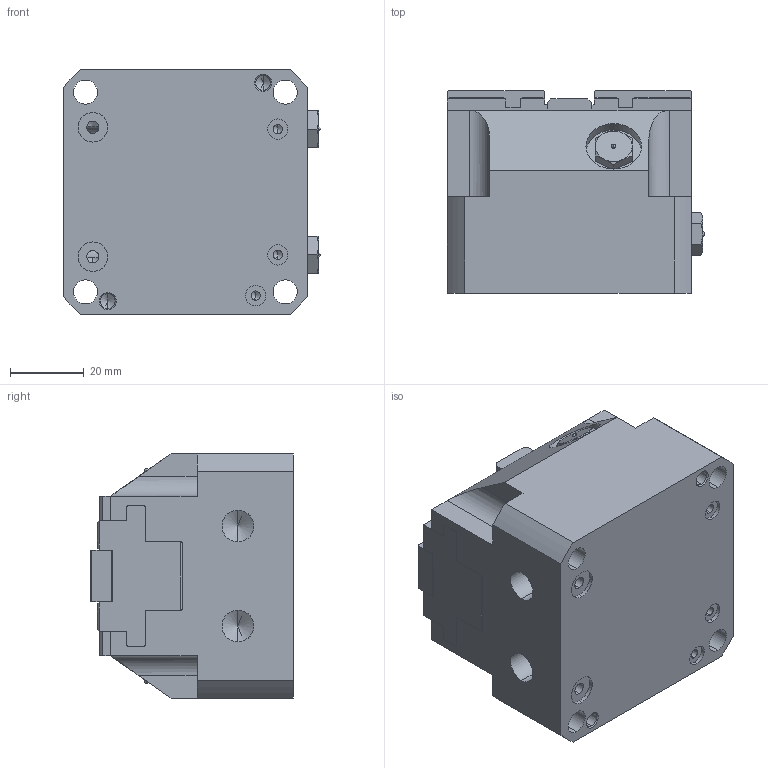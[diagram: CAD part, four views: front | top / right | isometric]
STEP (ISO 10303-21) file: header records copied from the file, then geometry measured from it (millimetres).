
FILE_DESCRIPTION (( 'STEP AP203' ), '1' );
FILE_NAME ('CFB-66 ID.STEP', '2013-01-07T12:51:36', ( 'BOLOGNESE' ), ( '' ), 'SwSTEP 2.0', 'SolidWorks 2009', '' );
FILE_SCHEMA (( 'CONFIG_CONTROL_DESIGN' ));
Length unit declared in the file: millimetre
Products named in the file (4): Coperchio; Griffa; CFB-66 ID; Corpo
Assembly tree (4 placements, depth 2):
  CFB-66 ID
    Griffa  x2
    Corpo
    Coperchio
Bounding box: 69.6 x 54.8 x 66 mm (x, y, z)
Volume: 191694.2 mm3; surface area: 39410.9 mm2
Topology: 4 solids, 4 shells, 437 faces, 1132 edges, 681 vertices
Faces by surface type: plane 235, cylinder 104, cone 90, sphere 8
Entity records: 10235 total; most frequent: CARTESIAN_POINT 2049, DIRECTION 1611, ORIENTED_EDGE 1594, EDGE_CURVE 797, AXIS2_PLACEMENT_3D 549, LINE 513, VECTOR 513, VERTEX_POINT 505
